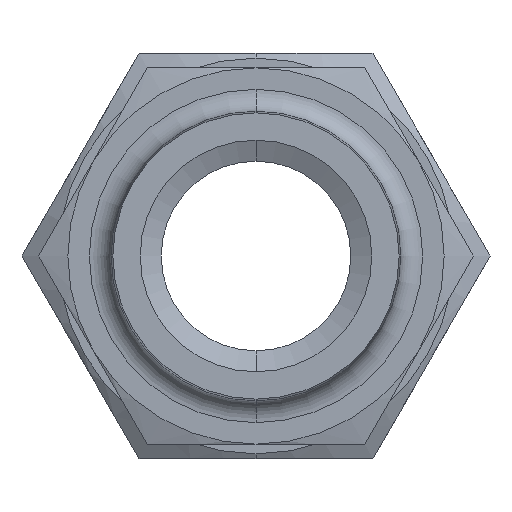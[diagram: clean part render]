
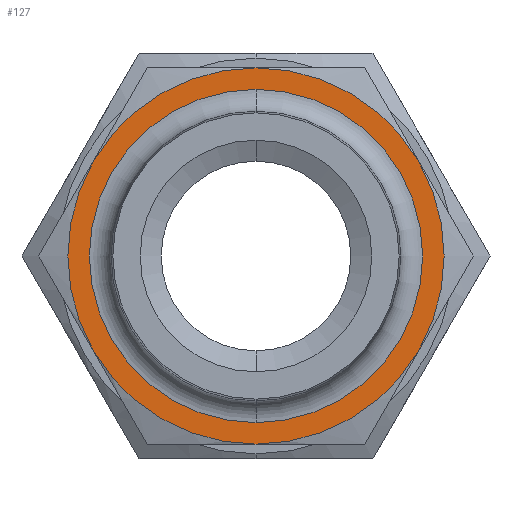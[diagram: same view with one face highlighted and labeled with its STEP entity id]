
A CAD part, left-side view. The second image highlights one B-rep face of the part: STEP entity #127.
In plain terms, the highlighted planar face has unit normal (-1, 0, 0).
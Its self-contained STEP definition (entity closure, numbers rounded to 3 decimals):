
#11 = EDGE_CURVE ( 'NONE', #190, #495, #596, .T. ) ;
#85 = ORIENTED_EDGE ( 'NONE', *, *, #701, .T. ) ;
#86 = EDGE_LOOP ( 'NONE', ( #87, #88 ) ) ;
#87 = ORIENTED_EDGE ( 'NONE', *, *, #103, .T. ) ;
#88 = ORIENTED_EDGE ( 'NONE', *, *, #354, .T. ) ;
#89 = EDGE_LOOP ( 'NONE', ( #90, #91, #166, #85, #93, #94 ) ) ;
#90 = ORIENTED_EDGE ( 'NONE', *, *, #660, .T. ) ;
#91 = ORIENTED_EDGE ( 'NONE', *, *, #113, .T. ) ;
#93 = ORIENTED_EDGE ( 'NONE', *, *, #11, .T. ) ;
#94 = ORIENTED_EDGE ( 'NONE', *, *, #712, .T. ) ;
#103 = EDGE_CURVE ( 'NONE', #356, #355, #896, .T. ) ;
#113 = EDGE_CURVE ( 'NONE', #235, #225, #793, .T. ) ;
#123 = EDGE_CURVE ( 'NONE', #225, #302, #788, .T. ) ;
#127 = ADVANCED_FACE ( 'NONE', ( #887, #883 ), #882, .F. ) ;
#166 = ORIENTED_EDGE ( 'NONE', *, *, #123, .T. ) ;
#190 = VERTEX_POINT ( 'NONE', #945 ) ;
#225 = VERTEX_POINT ( 'NONE', #975 ) ;
#235 = VERTEX_POINT ( 'NONE', #1002 ) ;
#302 = VERTEX_POINT ( 'NONE', #1244 ) ;
#354 = EDGE_CURVE ( 'NONE', #355, #356, #1324, .T. ) ;
#355 = VERTEX_POINT ( 'NONE', #1220 ) ;
#356 = VERTEX_POINT ( 'NONE', #1219 ) ;
#495 = VERTEX_POINT ( 'NONE', #1681 ) ;
#592 = DIRECTION ( 'NONE',  ( 0., 0., 1. ) ) ;
#593 = DIRECTION ( 'NONE',  ( -1., 0., 0. ) ) ;
#594 = CARTESIAN_POINT ( 'NONE',  ( 0., 0., 0. ) ) ;
#595 = AXIS2_PLACEMENT_3D ( 'NONE', #594, #593, #592 ) ;
#596 = CIRCLE ( 'NONE', #595, 10.32 ) ;
#634 = VERTEX_POINT ( 'NONE', #1803 ) ;
#660 = EDGE_CURVE ( 'NONE', #634, #235, #1628, .T. ) ;
#701 = EDGE_CURVE ( 'NONE', #302, #190, #1912, .T. ) ;
#712 = EDGE_CURVE ( 'NONE', #495, #634, #1899, .T. ) ;
#784 = DIRECTION ( 'NONE',  ( 0., 0., 1. ) ) ;
#785 = DIRECTION ( 'NONE',  ( -1., 0., 0. ) ) ;
#786 = CARTESIAN_POINT ( 'NONE',  ( 0., 0., 0. ) ) ;
#787 = AXIS2_PLACEMENT_3D ( 'NONE', #786, #785, #784 ) ;
#788 = CIRCLE ( 'NONE', #787, 10.32 ) ;
#789 = DIRECTION ( 'NONE',  ( 0., 0., 1. ) ) ;
#790 = DIRECTION ( 'NONE',  ( -1., 0., 0. ) ) ;
#791 = CARTESIAN_POINT ( 'NONE',  ( 0., 0., 0. ) ) ;
#792 = AXIS2_PLACEMENT_3D ( 'NONE', #791, #790, #789 ) ;
#793 = CIRCLE ( 'NONE', #792, 10.32 ) ;
#877 = DIRECTION ( 'NONE',  ( 0., 0., -1. ) ) ;
#878 = DIRECTION ( 'NONE',  ( 1., 0., 0. ) ) ;
#879 = AXIS2_PLACEMENT_3D ( 'NONE', #881, #878, #877 ) ;
#881 = CARTESIAN_POINT ( 'NONE',  ( 0., 11.917, 0. ) ) ;
#882 = PLANE ( 'NONE',  #879 ) ;
#883 = FACE_OUTER_BOUND ( 'NONE', #89, .T. ) ;
#887 = FACE_BOUND ( 'NONE', #86, .T. ) ;
#892 = DIRECTION ( 'NONE',  ( 0., 0., -1. ) ) ;
#893 = DIRECTION ( 'NONE',  ( 1., 0., 0. ) ) ;
#894 = CARTESIAN_POINT ( 'NONE',  ( 0., 0., 0. ) ) ;
#895 = AXIS2_PLACEMENT_3D ( 'NONE', #894, #893, #892 ) ;
#896 = CIRCLE ( 'NONE', #895, 9.14 ) ;
#945 = CARTESIAN_POINT ( 'NONE',  ( 0., 0., 10.32 ) ) ;
#975 = CARTESIAN_POINT ( 'NONE',  ( 0., -8.937, -5.16 ) ) ;
#1002 = CARTESIAN_POINT ( 'NONE',  ( 0., 0., -10.32 ) ) ;
#1219 = CARTESIAN_POINT ( 'NONE',  ( 0., 0., -9.14 ) ) ;
#1220 = CARTESIAN_POINT ( 'NONE',  ( 0., 0., 9.14 ) ) ;
#1244 = CARTESIAN_POINT ( 'NONE',  ( 0., -8.937, 5.16 ) ) ;
#1315 = DIRECTION ( 'NONE',  ( 0., 0., -1. ) ) ;
#1316 = DIRECTION ( 'NONE',  ( 1., 0., 0. ) ) ;
#1317 = CARTESIAN_POINT ( 'NONE',  ( 0., 0., 0. ) ) ;
#1318 = AXIS2_PLACEMENT_3D ( 'NONE', #1317, #1316, #1315 ) ;
#1324 = CIRCLE ( 'NONE', #1318, 9.14 ) ;
#1624 = DIRECTION ( 'NONE',  ( 0., 0., 1. ) ) ;
#1625 = DIRECTION ( 'NONE',  ( -1., 0., 0. ) ) ;
#1626 = CARTESIAN_POINT ( 'NONE',  ( 0., 0., 0. ) ) ;
#1627 = AXIS2_PLACEMENT_3D ( 'NONE', #1626, #1625, #1624 ) ;
#1628 = CIRCLE ( 'NONE', #1627, 10.32 ) ;
#1681 = CARTESIAN_POINT ( 'NONE',  ( 0., 8.937, 5.16 ) ) ;
#1803 = CARTESIAN_POINT ( 'NONE',  ( 0., 8.937, -5.16 ) ) ;
#1867 = DIRECTION ( 'NONE',  ( 0., 0., 1. ) ) ;
#1868 = DIRECTION ( 'NONE',  ( -1., 0., 0. ) ) ;
#1869 = CARTESIAN_POINT ( 'NONE',  ( 0., 0., 0. ) ) ;
#1870 = AXIS2_PLACEMENT_3D ( 'NONE', #1869, #1868, #1867 ) ;
#1899 = CIRCLE ( 'NONE', #1870, 10.32 ) ;
#1908 = DIRECTION ( 'NONE',  ( 0., 0., 1. ) ) ;
#1909 = DIRECTION ( 'NONE',  ( -1., 0., 0. ) ) ;
#1910 = CARTESIAN_POINT ( 'NONE',  ( 0., 0., 0. ) ) ;
#1911 = AXIS2_PLACEMENT_3D ( 'NONE', #1910, #1909, #1908 ) ;
#1912 = CIRCLE ( 'NONE', #1911, 10.32 ) ;
